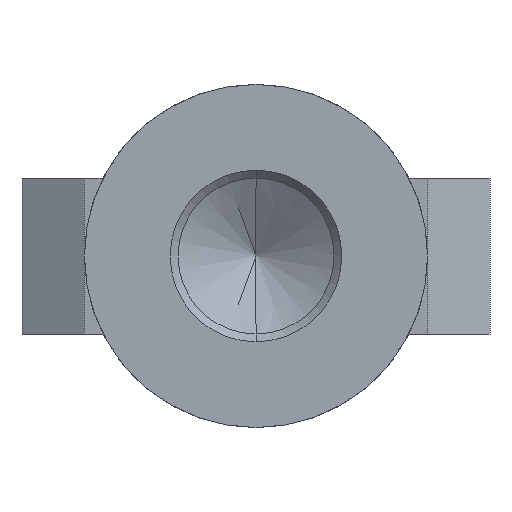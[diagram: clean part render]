
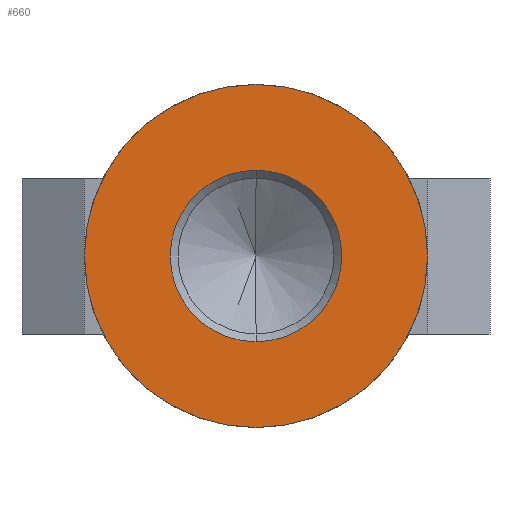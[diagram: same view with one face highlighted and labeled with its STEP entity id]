
A CAD part, front view. The second image highlights one B-rep face of the part: STEP entity #660.
In plain terms, the highlighted planar face has unit normal (0, -1, 0).
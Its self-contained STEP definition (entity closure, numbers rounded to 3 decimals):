
#12 = CARTESIAN_POINT ( 'NONE',  ( 0., 0., 0. ) ) ;
#26 = DIRECTION ( 'NONE',  ( 0., -1., 0. ) ) ;
#31 = VERTEX_POINT ( 'NONE', #172 ) ;
#36 = EDGE_LOOP ( 'NONE', ( #686, #542 ) ) ;
#45 = EDGE_CURVE ( 'NONE', #91, #31, #289, .T. ) ;
#71 = DIRECTION ( 'NONE',  ( 0., 0., -1. ) ) ;
#73 = CARTESIAN_POINT ( 'NONE',  ( 0., 0., 2.75 ) ) ;
#76 = DIRECTION ( 'NONE',  ( 0., 0., 1. ) ) ;
#78 = PLANE ( 'NONE',  #645 ) ;
#89 = CARTESIAN_POINT ( 'NONE',  ( 0., 0., -5.5 ) ) ;
#91 = VERTEX_POINT ( 'NONE', #73 ) ;
#107 = AXIS2_PLACEMENT_3D ( 'NONE', #335, #26, #331 ) ;
#127 = CIRCLE ( 'NONE', #107, 2.75 ) ;
#150 = EDGE_CURVE ( 'NONE', #31, #91, #127, .T. ) ;
#161 = CIRCLE ( 'NONE', #403, 5.5 ) ;
#172 = CARTESIAN_POINT ( 'NONE',  ( 0., 0., -2.75 ) ) ;
#173 = VERTEX_POINT ( 'NONE', #89 ) ;
#178 = EDGE_LOOP ( 'NONE', ( #324, #249 ) ) ;
#243 = AXIS2_PLACEMENT_3D ( 'NONE', #775, #390, #71 ) ;
#249 = ORIENTED_EDGE ( 'NONE', *, *, #45, .F. ) ;
#260 = DIRECTION ( 'NONE',  ( 0., 1., 0. ) ) ;
#263 = DIRECTION ( 'NONE',  ( 0., 0., 1. ) ) ;
#289 = CIRCLE ( 'NONE', #243, 2.75 ) ;
#324 = ORIENTED_EDGE ( 'NONE', *, *, #150, .F. ) ;
#331 = DIRECTION ( 'NONE',  ( 0., 0., -1. ) ) ;
#335 = CARTESIAN_POINT ( 'NONE',  ( 0., 0., 0. ) ) ;
#339 = VERTEX_POINT ( 'NONE', #413 ) ;
#385 = DIRECTION ( 'NONE',  ( 0., 0., 1. ) ) ;
#390 = DIRECTION ( 'NONE',  ( 0., -1., 0. ) ) ;
#403 = AXIS2_PLACEMENT_3D ( 'NONE', #641, #260, #263 ) ;
#413 = CARTESIAN_POINT ( 'NONE',  ( 0., 0., 5.5 ) ) ;
#419 = FACE_OUTER_BOUND ( 'NONE', #36, .T. ) ;
#451 = CARTESIAN_POINT ( 'NONE',  ( 0., 0., 0. ) ) ;
#454 = DIRECTION ( 'NONE',  ( 0., 1., 0. ) ) ;
#542 = ORIENTED_EDGE ( 'NONE', *, *, #663, .F. ) ;
#580 = DIRECTION ( 'NONE',  ( 0., 1., 0. ) ) ;
#586 = CIRCLE ( 'NONE', #606, 5.5 ) ;
#606 = AXIS2_PLACEMENT_3D ( 'NONE', #12, #454, #385 ) ;
#641 = CARTESIAN_POINT ( 'NONE',  ( 0., 0., 0. ) ) ;
#645 = AXIS2_PLACEMENT_3D ( 'NONE', #451, #580, #76 ) ;
#660 = ADVANCED_FACE ( 'NONE', ( #771, #419 ), #78, .F. ) ;
#663 = EDGE_CURVE ( 'NONE', #339, #173, #161, .T. ) ;
#686 = ORIENTED_EDGE ( 'NONE', *, *, #711, .F. ) ;
#711 = EDGE_CURVE ( 'NONE', #173, #339, #586, .T. ) ;
#771 = FACE_BOUND ( 'NONE', #178, .T. ) ;
#775 = CARTESIAN_POINT ( 'NONE',  ( 0., 0., 0. ) ) ;
